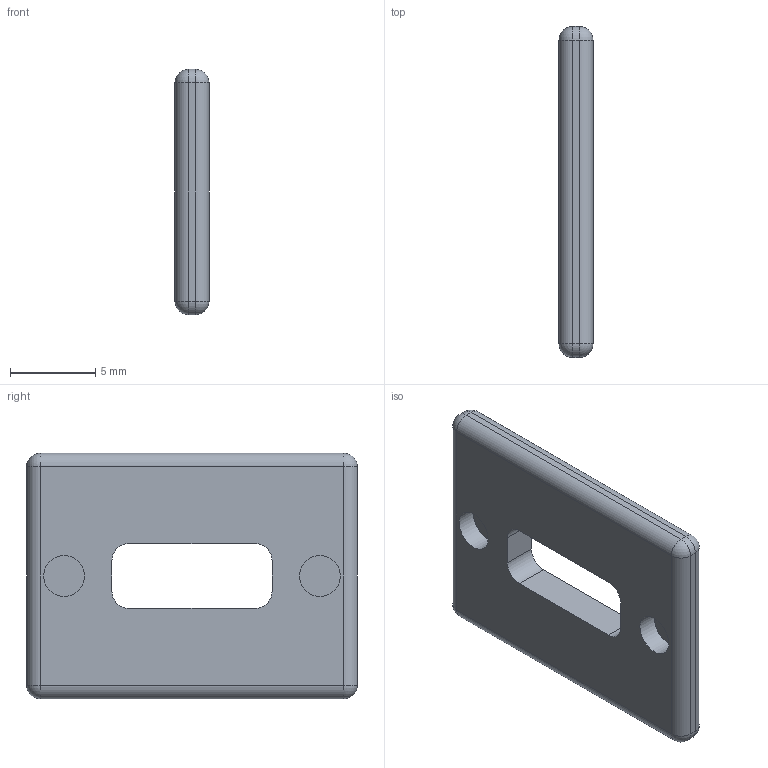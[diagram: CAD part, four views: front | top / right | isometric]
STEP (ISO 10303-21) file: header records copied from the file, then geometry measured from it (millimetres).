
FILE_DESCRIPTION(('Open CASCADE Model'),'2;1');
FILE_NAME('Open CASCADE Shape Model','2026-10-20T14:20:54',('Author'),( 'Open CASCADE'),'Open CASCADE STEP processor 7.8','Open CASCADE 7.8' ,'Unknown');
FILE_SCHEMA(('AUTOMOTIVE_DESIGN { 1 0 10303 214 1 1 1 1 }'));
Length unit declared in the file: millimetre
Products named in the file (1): Open CASCADE STEP translator 7.8 12
Bounding box: 2 x 19.4 x 14.4 mm (x, y, z)
Volume: 459.2 mm3; surface area: 641.8 mm2
Topology: 1 solids, 1 shells, 38 faces, 86 edges, 44 vertices
Faces by surface type: cylinder 18, plane 12, sphere 8
Full cylindrical faces by diameter (mm): 2.4 x2
Entity records: 1966 total; most frequent: CARTESIAN_POINT 365, DIRECTION 300, ORIENTED_EDGE 156, PCURVE 156, DEFINITIONAL_REPRESENTATION 156, LINE 138, VECTOR 138, EDGE_CURVE 78
